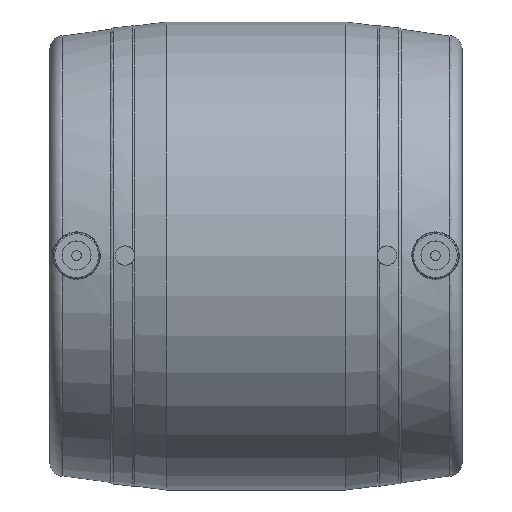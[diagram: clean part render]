
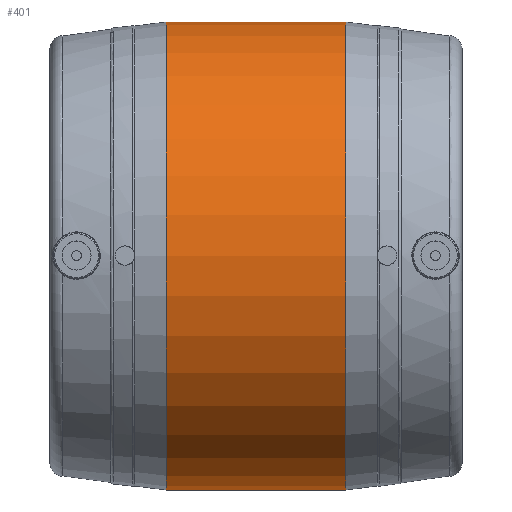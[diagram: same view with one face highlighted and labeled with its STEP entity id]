
A CAD part, top view. The second image highlights one B-rep face of the part: STEP entity #401.
In plain terms, the highlighted cylindrical face has radius 96.5 mm (diameter 193 mm), a full revolution.
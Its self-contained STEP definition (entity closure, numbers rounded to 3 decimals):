
#21=CYLINDRICAL_SURFACE('',#462,96.5);
#79=ORIENTED_EDGE('',*,*,#157,.T.);
#80=ORIENTED_EDGE('',*,*,#158,.T.);
#157=EDGE_CURVE('',#197,#197,#230,.F.);
#158=EDGE_CURVE('',#198,#198,#231,.T.);
#197=VERTEX_POINT('',#741);
#198=VERTEX_POINT('',#743);
#230=CIRCLE('',#463,96.5);
#231=CIRCLE('',#464,96.5);
#268=EDGE_LOOP('',(#79));
#269=EDGE_LOOP('',(#80));
#334=FACE_BOUND('',#268,.T.);
#335=FACE_BOUND('',#269,.T.);
#401=ADVANCED_FACE('',(#334,#335),#21,.T.);
#462=AXIS2_PLACEMENT_3D('',#739,#553,#554);
#463=AXIS2_PLACEMENT_3D('',#740,#555,#556);
#464=AXIS2_PLACEMENT_3D('',#742,#557,#558);
#553=DIRECTION('',(-1.,0.,0.));
#554=DIRECTION('',(0.,0.,1.));
#555=DIRECTION('',(1.,0.,0.));
#556=DIRECTION('',(0.,0.,-1.));
#557=DIRECTION('',(1.,0.,0.));
#558=DIRECTION('',(0.,0.,-1.));
#739=CARTESIAN_POINT('',(-60.,0.,0.));
#740=CARTESIAN_POINT('',(36.936,0.,0.));
#741=CARTESIAN_POINT('',(36.936,0.,-96.5));
#742=CARTESIAN_POINT('',(-36.936,0.,0.));
#743=CARTESIAN_POINT('',(-36.936,0.,-96.5));
